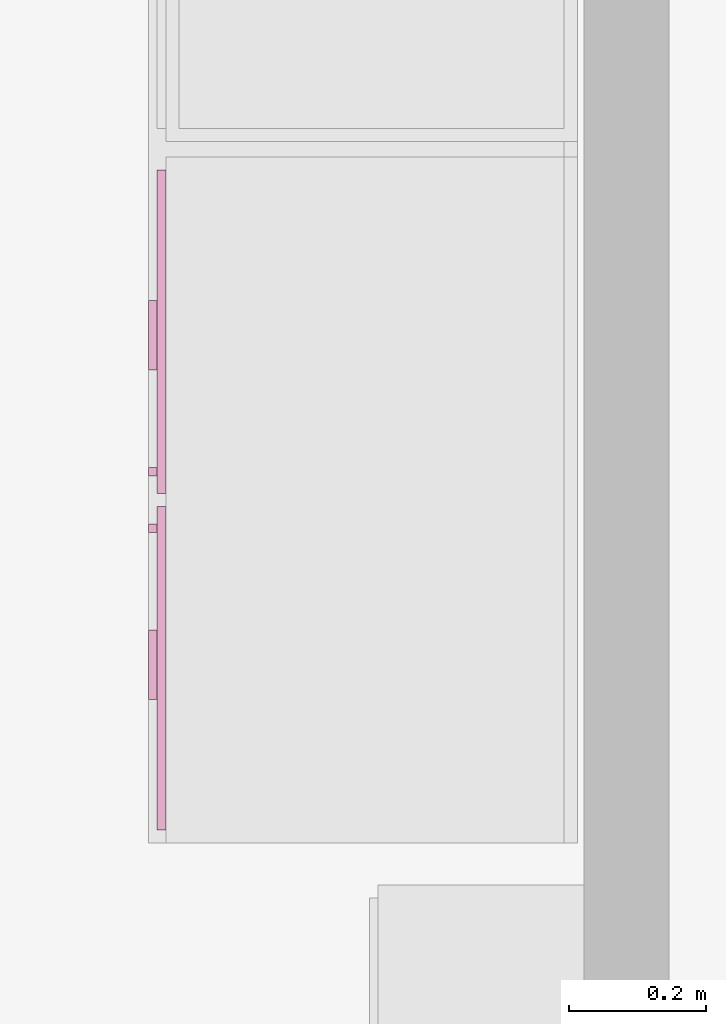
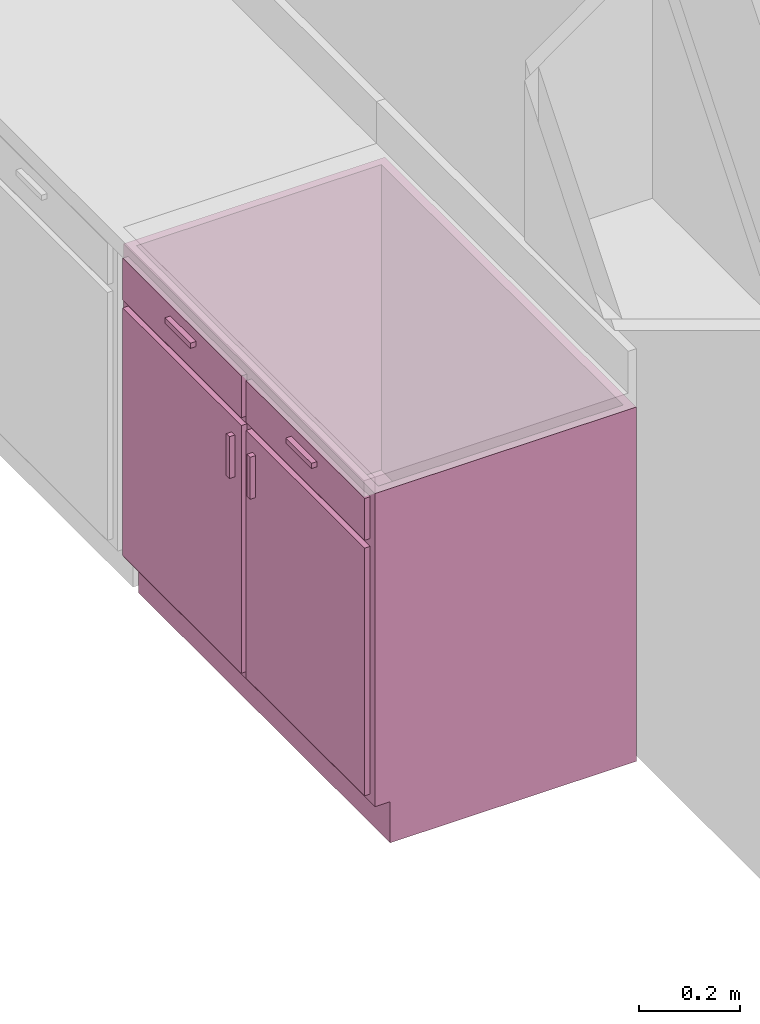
# One storey, part 46 of 47: 1 furnishing.
"""IFC2X3 building model written with IfcOpenShell, lengths in metres."""

from ifc_helpers import new_model, entity, si_unit, converted_unit, frame, origin, place, context, project, spatial, face_set, surface_model, source, transform, mapped, type_object, type_shapes, element, save


model = new_model("IFC2X3")

# Units and contexts
model_context = context("Model", 3, precision=1e-09, world=origin())
plan_context = context("Plan", 3, precision=1e-09, world=origin())
ifc_project = project(units=[si_unit("LENGTHUNIT", "METRE"), si_unit("AREAUNIT", "SQUARE_METRE"), si_unit("VOLUMEUNIT", "CUBIC_METRE"), converted_unit("PLANEANGLEUNIT", "DEGREE", entity("IfcRatioMeasure", 0.01745329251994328), si_unit("PLANEANGLEUNIT", "RADIAN"), dimensions=[0, 0, 0, 0, 0, 0, 0]), si_unit("TIMEUNIT", "SECOND")], contexts=[model_context, plan_context])

# Site, building, storey, space
site_placement = place(None, origin())
site = spatial("IfcSite", under=ifc_project, at=site_placement, Name="Default", CompositionType="ELEMENT")
building_placement = place(site_placement, origin())
building = spatial("IfcBuilding", under=site, at=building_placement, CompositionType="ELEMENT")
storey_placement = place(building_placement, frame((0.0, 0.0, 4.570000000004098)))
storey = spatial("IfcBuildingStorey", under=building, at=storey_placement, Name="Second Floor", CompositionType="ELEMENT", Elevation=4.570000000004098)
space_placement = place(storey_placement, origin())
space = spatial("IfcSpace", under=storey, at=space_placement, Name="2C17", CompositionType="ELEMENT", InteriorOrExteriorSpace="INTERNAL")

# Furnishing
furniture_type = type_object("IfcFurnitureType", Name="1000mm", AssemblyPlace="NOTDEFINED")
shared_shape = source(origin(), model_context, "Body", "SurfaceModel", [
    surface_model("IfcFaceBasedSurfaceModel", [(0.9809499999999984, 0.04445000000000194, 0.8600000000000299), (0.9809499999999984, 0.04445000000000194, 0.0999999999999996), (0.01905000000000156, 0.04445000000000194, 0.0999999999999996), (0.01905000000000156, 0.04445000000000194, 0.8600000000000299), (1.0, 0.02540000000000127, 0.8600000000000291), (0.0, 0.02540000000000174, 0.8600000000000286), (1.0, 0.02540000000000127, 0.0999999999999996), (0.0, 0.02540000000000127, 0.09999999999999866), (0.01905000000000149, 0.606349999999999, 0.8600000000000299), (0.01905000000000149, 0.606349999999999, 0.09999999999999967), (0.01905000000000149, 0.06040000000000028, 0.0999999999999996), (0.0, 0.6253999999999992, 0.8600000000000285), (0.0, 0.6254000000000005, 0.0), (0.0, 0.06040000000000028, 0.0), (0.0, 0.06040000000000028, 0.09999999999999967), (0.9809499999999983, 0.6063499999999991, 0.8600000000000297), (0.9809499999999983, 0.6063499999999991, 0.09999999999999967), (1.0, 0.6253999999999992, 0.8600000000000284), (1.0, 0.6253999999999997, 0.0), (0.9809499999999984, 0.06040000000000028, 0.09999999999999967), (1.0, 0.06040000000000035, 0.09999999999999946), (1.0, 0.06040000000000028, 0.0), (0.3103250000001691, 0.0, 0.815550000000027), (0.3103250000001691, 0.0, 0.8028500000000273), (0.2087250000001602, 0.0, 0.8028500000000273), (0.2087250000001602, 0.0, 0.815550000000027), (0.7912750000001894, 0.0, 0.815550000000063), (0.7912750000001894, 0.0, 0.8028500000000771), (0.6896750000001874, 0.0, 0.8028500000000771), (0.6896750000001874, 0.0, 0.815550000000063), (0.4650750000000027, 0.0, 0.6822000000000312), (0.4650750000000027, 0.0, 0.5806000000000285), (0.4523750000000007, 0.0, 0.5806000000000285), (0.4523750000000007, 0.0, 0.6822000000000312), (0.5476249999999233, 0.0, 0.6822000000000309), (0.5476249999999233, 0.0, 0.5806000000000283), (0.5349249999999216, 0.0, 0.5806000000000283), (0.5349249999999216, 0.0, 0.6822000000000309), (0.3103250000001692, 0.01270000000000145, 0.815550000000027), (0.3103250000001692, 0.01270000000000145, 0.8028500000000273), (0.2087250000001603, 0.01270000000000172, 0.8028500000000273), (0.2087250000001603, 0.01270000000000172, 0.815550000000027), (0.7912750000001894, 0.01269999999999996, 0.815550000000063), (0.7912750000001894, 0.01269999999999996, 0.8028500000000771), (0.6896750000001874, 0.01270000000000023, 0.8028500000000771), (0.6896750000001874, 0.01270000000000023, 0.815550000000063), (0.4650750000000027, 0.0127000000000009, 0.6822000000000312), (0.4650750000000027, 0.0127000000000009, 0.5806000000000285), (0.4523750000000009, 0.0127000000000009, 0.5806000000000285), (0.4523750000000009, 0.0127000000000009, 0.6822000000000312), (0.5476249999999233, 0.01270000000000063, 0.6822000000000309), (0.5476249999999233, 0.01270000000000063, 0.5806000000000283), (0.5349249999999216, 0.01270000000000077, 0.5806000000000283), (0.5349249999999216, 0.01270000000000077, 0.6822000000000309), (0.4904749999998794, 0.0127000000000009, 0.840950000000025), (0.4904749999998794, 0.0127000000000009, 0.7393500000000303), (0.01905000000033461, 0.01270000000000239, 0.7393500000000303), (0.01905000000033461, 0.01270000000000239, 0.840950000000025), (0.9809500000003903, 0.01269999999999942, 0.8409500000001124), (0.9809500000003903, 0.01269999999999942, 0.7393500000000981), (0.509524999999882, 0.0127000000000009, 0.7393500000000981), (0.509524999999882, 0.0127000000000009, 0.8409500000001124), (0.4904749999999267, 0.0127000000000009, 0.7203000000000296), (0.4904749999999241, 0.0127000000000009, 0.119049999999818), (0.01905000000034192, 0.01270000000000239, 0.119049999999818), (0.01905000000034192, 0.01270000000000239, 0.7203000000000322), (0.9809500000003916, 0.01269999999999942, 0.7203000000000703), (0.9809500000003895, 0.01269999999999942, 0.1190499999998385), (0.5095249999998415, 0.0127000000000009, 0.1190499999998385), (0.5095249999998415, 0.0127000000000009, 0.7203000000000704), (0.4904749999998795, 0.02540000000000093, 0.840950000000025), (0.4904749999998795, 0.02540000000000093, 0.7393500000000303), (0.01905000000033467, 0.02540000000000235, 0.7393500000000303), (0.01905000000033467, 0.02540000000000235, 0.840950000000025), (0.9809500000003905, 0.02539999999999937, 0.8409500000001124), (0.9809500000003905, 0.02539999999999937, 0.7393500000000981), (0.5095249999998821, 0.02540000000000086, 0.7393500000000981), (0.5095249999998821, 0.02540000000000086, 0.8409500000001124), (0.4904749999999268, 0.02540000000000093, 0.7203000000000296), (0.4904749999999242, 0.02540000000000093, 0.119049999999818), (0.01905000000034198, 0.02540000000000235, 0.119049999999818), (0.01905000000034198, 0.02540000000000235, 0.7203000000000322), (0.9809500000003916, 0.02539999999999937, 0.7203000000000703), (0.9809500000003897, 0.02539999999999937, 0.1190499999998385), (0.5095249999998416, 0.02540000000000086, 0.1190499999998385), (0.5095249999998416, 0.02540000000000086, 0.7203000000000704), (0.9809499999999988, 0.6063499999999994, 0.1190499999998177), (0.9809499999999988, 0.04445000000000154, 0.1190499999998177), (0.01905000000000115, 0.04445000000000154, 0.1190499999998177), (0.01905000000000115, 0.6063499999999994, 0.1190499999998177), (0.9809499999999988, 0.6063499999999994, 0.09999999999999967), (0.9809499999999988, 0.04445000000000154, 0.09999999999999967), (0.01905000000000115, 0.04445000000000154, 0.09999999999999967), (0.01905000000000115, 0.6063499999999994, 0.09999999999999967)], [face_set([[[0, 1, 2, 3]], [[0, 4, 5, 3]], [[4, 6, 7, 5]], [[2, 1, 6, 7]], [[3, 8, 9, 10, 2]], [[5, 11, 8, 3]], [[7, 5, 11, 12, 13, 14]], [[2, 7, 14, 10]], [[8, 15, 16, 9]], [[11, 17, 15, 8]], [[12, 11, 17, 18]], [[1, 19, 16, 15, 0]], [[0, 15, 17, 4]], [[4, 6, 20, 21, 18, 17]], [[6, 1, 19, 20]], [[10, 9, 16, 19]], [[18, 21, 13, 12]], [[13, 14, 10, 19, 20, 21]]]), face_set([[[22, 23, 24, 25]], [[26, 27, 28, 29]], [[30, 31, 32, 33]], [[34, 35, 36, 37]], [[38, 39, 40, 41]], [[42, 43, 44, 45]], [[46, 47, 48, 49]], [[50, 51, 52, 53]], [[25, 41, 38, 22]], [[24, 40, 41, 25]], [[23, 24, 40, 39]], [[22, 23, 39, 38]], [[29, 45, 42, 26]], [[28, 44, 45, 29]], [[27, 28, 44, 43]], [[26, 27, 43, 42]], [[33, 49, 46, 30]], [[32, 48, 49, 33]], [[31, 32, 48, 47]], [[30, 31, 47, 46]], [[37, 53, 50, 34]], [[36, 52, 53, 37]], [[35, 36, 52, 51]], [[34, 35, 51, 50]]]), face_set([[[54, 55, 56, 57]], [[58, 59, 60, 61]], [[62, 63, 64, 65]], [[66, 67, 68, 69]], [[70, 71, 72, 73]], [[74, 75, 76, 77]], [[78, 79, 80, 81]], [[82, 83, 84, 85]], [[57, 73, 70, 54]], [[56, 57, 73, 72]], [[55, 56, 72, 71]], [[54, 55, 71, 70]], [[61, 77, 74, 58]], [[60, 76, 77, 61]], [[59, 60, 76, 75]], [[58, 59, 75, 74]], [[65, 81, 78, 62]], [[64, 65, 81, 80]], [[63, 64, 80, 79]], [[62, 63, 79, 78]], [[69, 85, 82, 66]], [[68, 84, 85, 69]], [[67, 68, 84, 83]], [[66, 67, 83, 82]]]), face_set([[[86, 87, 88, 89]], [[90, 91, 92, 93]], [[89, 86, 90, 93]], [[88, 89, 93, 92]], [[87, 91, 92, 88]], [[86, 87, 91, 90]]])]),
])
type_shapes(furniture_type, [shared_shape])
furnishing_placement = place(space_placement, frame((-44.23500000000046, 40.75008347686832, 0.0), z_axis=(0.0, 0.0, 1.0), x_axis=(0.0, -1.0, 0.0)))
element("IfcFurnishingElement", 1, at=furnishing_placement, inside=space, type_object=furniture_type, Name="M_Base Cabinet-Double Door & 2 Drawer:1000mm:1000mm", ObjectType="1000mm", context=model_context, shape_type="MappedRepresentation", body=[
    mapped(shared_shape, transform((0.0, 0.0, 0.0), scale=1.0)),
])

save(model, "model.ifc")
